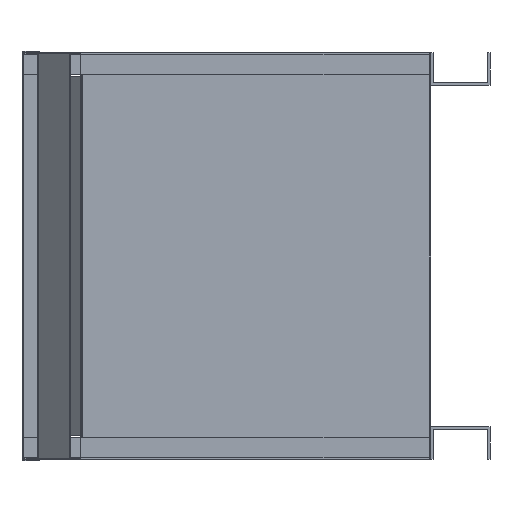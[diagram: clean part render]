
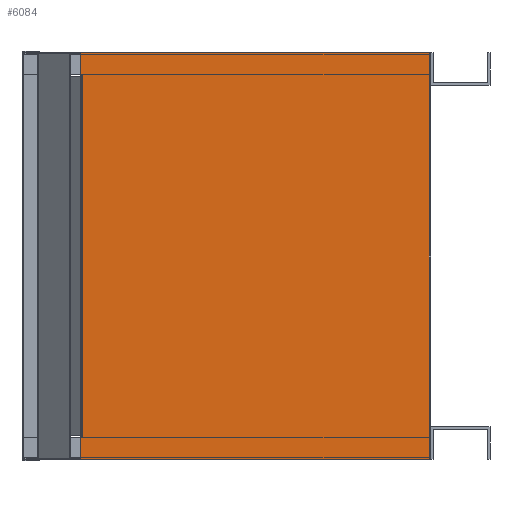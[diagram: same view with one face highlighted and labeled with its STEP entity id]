
A CAD part, left-side view. The second image highlights one B-rep face of the part: STEP entity #6084.
In plain terms, the highlighted planar face has unit normal (-1, 0, 0).
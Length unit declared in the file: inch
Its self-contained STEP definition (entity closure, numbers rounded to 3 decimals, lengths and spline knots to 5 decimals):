
#47 = CARTESIAN_POINT ( 'NONE',  ( -0.09, 0.18885, -25.825 ) ) ;
#201 = ORIENTED_EDGE ( 'NONE', *, *, #28318, .T. ) ;
#318 = ORIENTED_EDGE ( 'NONE', *, *, #22104, .T. ) ;
#363 = VERTEX_POINT ( 'NONE', #7758 ) ;
#1061 = VERTEX_POINT ( 'NONE', #26244 ) ;
#1168 = CARTESIAN_POINT ( 'NONE',  ( -0.09, 0., 0. ) ) ;
#1294 = VECTOR ( 'NONE', #15423, 39.37008 ) ;
#1604 = VECTOR ( 'NONE', #8048, 39.37008 ) ;
#1670 = DIRECTION ( 'NONE',  ( 0., -1., 0. ) ) ;
#1977 = CARTESIAN_POINT ( 'NONE',  ( -0.09, 0.14385, -25.78 ) ) ;
#2514 = CARTESIAN_POINT ( 'NONE',  ( -0.09, 23.5, 0. ) ) ;
#2786 = EDGE_CURVE ( 'NONE', #27806, #3678, #15313, .T. ) ;
#2841 = LINE ( 'NONE', #15813, #31214 ) ;
#3024 = LINE ( 'NONE', #21807, #18285 ) ;
#3295 = VECTOR ( 'NONE', #29714, 39.37008 ) ;
#3678 = VERTEX_POINT ( 'NONE', #24948 ) ;
#5185 = EDGE_CURVE ( 'NONE', #20955, #13416, #27158, .T. ) ;
#5407 = DIRECTION ( 'NONE',  ( 0., 0., 1. ) ) ;
#6084 = ADVANCED_FACE ( 'NONE', ( #23589 ), #6937, .T. ) ;
#6263 = CARTESIAN_POINT ( 'NONE',  ( -0.09, 0.14385, -25.78 ) ) ;
#6440 = EDGE_CURVE ( 'NONE', #15036, #15498, #12971, .T. ) ;
#6937 = PLANE ( 'NONE',  #23748 ) ;
#7758 = CARTESIAN_POINT ( 'NONE',  ( -0.09, 23.5, -27.38 ) ) ;
#8048 = DIRECTION ( 'NONE',  ( 0., 1., 0. ) ) ;
#9010 = CARTESIAN_POINT ( 'NONE',  ( -0.09, 23.5, 0. ) ) ;
#9052 = ORIENTED_EDGE ( 'NONE', *, *, #17457, .F. ) ;
#9175 = LINE ( 'NONE', #9010, #30078 ) ;
#9781 = DIRECTION ( 'NONE',  ( 0., 1., 0. ) ) ;
#10259 = DIRECTION ( 'NONE',  ( -1., 0., 0. ) ) ;
#11573 = EDGE_CURVE ( 'NONE', #28479, #31666, #3024, .T. ) ;
#11819 = CARTESIAN_POINT ( 'NONE',  ( -0.09, 0., -1.6 ) ) ;
#12024 = ORIENTED_EDGE ( 'NONE', *, *, #5185, .T. ) ;
#12280 = CARTESIAN_POINT ( 'NONE',  ( -0.09, 0.18885, -1.555 ) ) ;
#12971 = LINE ( 'NONE', #21220, #1294 ) ;
#13284 = ORIENTED_EDGE ( 'NONE', *, *, #24421, .T. ) ;
#13416 = VERTEX_POINT ( 'NONE', #12280 ) ;
#14424 = DIRECTION ( 'NONE',  ( 0., 0., 1. ) ) ;
#14514 = LINE ( 'NONE', #1168, #32493 ) ;
#14817 = CARTESIAN_POINT ( 'NONE',  ( -0.09, 0., -25.78 ) ) ;
#15036 = VERTEX_POINT ( 'NONE', #28376 ) ;
#15313 = LINE ( 'NONE', #1977, #19826 ) ;
#15423 = DIRECTION ( 'NONE',  ( 0., 0., -1. ) ) ;
#15498 = VERTEX_POINT ( 'NONE', #15548 ) ;
#15548 = CARTESIAN_POINT ( 'NONE',  ( -0.09, 0., -27.38 ) ) ;
#15813 = CARTESIAN_POINT ( 'NONE',  ( -0.09, 0., -1.555 ) ) ;
#16160 = CARTESIAN_POINT ( 'NONE',  ( -0.09, 0., -1.555 ) ) ;
#16445 = CARTESIAN_POINT ( 'NONE',  ( -0.09, 0.18885, -1.6 ) ) ;
#16490 = ORIENTED_EDGE ( 'NONE', *, *, #34488, .F. ) ;
#17060 = LINE ( 'NONE', #19011, #3295 ) ;
#17422 = DIRECTION ( 'NONE',  ( 0., 1., 0. ) ) ;
#17457 = EDGE_CURVE ( 'NONE', #363, #23374, #9175, .T. ) ;
#18285 = VECTOR ( 'NONE', #14424, 39.37008 ) ;
#18288 = VECTOR ( 'NONE', #9781, 39.37008 ) ;
#18412 = EDGE_CURVE ( 'NONE', #15498, #363, #28038, .T. ) ;
#18925 = LINE ( 'NONE', #21559, #1604 ) ;
#19011 = CARTESIAN_POINT ( 'NONE',  ( -0.09, 0., 0. ) ) ;
#19826 = VECTOR ( 'NONE', #23387, 39.37008 ) ;
#20317 = CARTESIAN_POINT ( 'NONE',  ( -0.09, 0., -27.38 ) ) ;
#20955 = VERTEX_POINT ( 'NONE', #16445 ) ;
#20958 = DIRECTION ( 'NONE',  ( 0., 0., 1. ) ) ;
#21220 = CARTESIAN_POINT ( 'NONE',  ( -0.09, 0., 0. ) ) ;
#21559 = CARTESIAN_POINT ( 'NONE',  ( -0.09, 0., -25.825 ) ) ;
#21807 = CARTESIAN_POINT ( 'NONE',  ( -0.09, 0.18885, 0. ) ) ;
#22104 = EDGE_CURVE ( 'NONE', #13416, #25171, #2841, .T. ) ;
#22314 = ORIENTED_EDGE ( 'NONE', *, *, #6440, .F. ) ;
#23374 = VERTEX_POINT ( 'NONE', #2514 ) ;
#23387 = DIRECTION ( 'NONE',  ( 0., 0., 1. ) ) ;
#23589 = FACE_OUTER_BOUND ( 'NONE', #26071, .T. ) ;
#23748 = AXIS2_PLACEMENT_3D ( 'NONE', #34278, #10259, #20958 ) ;
#24347 = CARTESIAN_POINT ( 'NONE',  ( -0.09, 0.18885, 0. ) ) ;
#24421 = EDGE_CURVE ( 'NONE', #15036, #28479, #18925, .T. ) ;
#24892 = EDGE_CURVE ( 'NONE', #1061, #25171, #17060, .T. ) ;
#24948 = CARTESIAN_POINT ( 'NONE',  ( -0.09, 0.14385, -1.6 ) ) ;
#25013 = EDGE_CURVE ( 'NONE', #3678, #20955, #25328, .T. ) ;
#25171 = VERTEX_POINT ( 'NONE', #16160 ) ;
#25328 = LINE ( 'NONE', #11819, #26839 ) ;
#25522 = LINE ( 'NONE', #14817, #31431 ) ;
#26071 = EDGE_LOOP ( 'NONE', ( #22314, #13284, #27282, #201, #29847, #30246, #12024, #318, #32705, #16490, #9052, #28492 ) ) ;
#26244 = CARTESIAN_POINT ( 'NONE',  ( -0.09, 0., 0. ) ) ;
#26417 = CARTESIAN_POINT ( 'NONE',  ( -0.09, 0.18885, -25.78 ) ) ;
#26839 = VECTOR ( 'NONE', #17422, 39.37008 ) ;
#27158 = LINE ( 'NONE', #24347, #33795 ) ;
#27282 = ORIENTED_EDGE ( 'NONE', *, *, #11573, .T. ) ;
#27806 = VERTEX_POINT ( 'NONE', #6263 ) ;
#28038 = LINE ( 'NONE', #20317, #18288 ) ;
#28318 = EDGE_CURVE ( 'NONE', #31666, #27806, #25522, .T. ) ;
#28376 = CARTESIAN_POINT ( 'NONE',  ( -0.09, 0., -25.825 ) ) ;
#28479 = VERTEX_POINT ( 'NONE', #47 ) ;
#28492 = ORIENTED_EDGE ( 'NONE', *, *, #18412, .F. ) ;
#29714 = DIRECTION ( 'NONE',  ( 0., 0., -1. ) ) ;
#29847 = ORIENTED_EDGE ( 'NONE', *, *, #2786, .T. ) ;
#30078 = VECTOR ( 'NONE', #30565, 39.37008 ) ;
#30246 = ORIENTED_EDGE ( 'NONE', *, *, #25013, .T. ) ;
#30465 = DIRECTION ( 'NONE',  ( 0., -1., 0. ) ) ;
#30565 = DIRECTION ( 'NONE',  ( 0., 0., 1. ) ) ;
#31214 = VECTOR ( 'NONE', #34412, 39.37008 ) ;
#31431 = VECTOR ( 'NONE', #1670, 39.37008 ) ;
#31666 = VERTEX_POINT ( 'NONE', #26417 ) ;
#32493 = VECTOR ( 'NONE', #30465, 39.37008 ) ;
#32705 = ORIENTED_EDGE ( 'NONE', *, *, #24892, .F. ) ;
#33795 = VECTOR ( 'NONE', #5407, 39.37008 ) ;
#34278 = CARTESIAN_POINT ( 'NONE',  ( -0.09, 0., 0. ) ) ;
#34412 = DIRECTION ( 'NONE',  ( 0., -1., 0. ) ) ;
#34488 = EDGE_CURVE ( 'NONE', #23374, #1061, #14514, .T. ) ;
